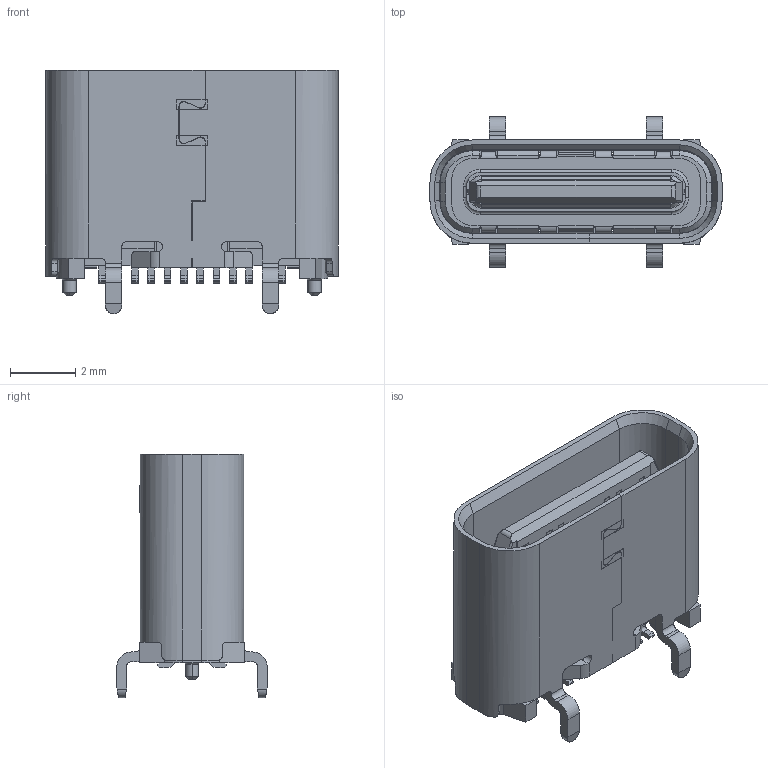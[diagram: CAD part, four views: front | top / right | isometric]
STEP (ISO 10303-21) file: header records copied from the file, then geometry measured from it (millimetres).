
FILE_DESCRIPTION (( 'STEP AP203' ), '1' );
FILE_NAME ('U5381-24PN6.5L.STEP', '2026-09-22T05:39:08', ( '' ), ( '' ), 'SwSTEP 2.0', 'SolidWorks 2024', '' );
FILE_SCHEMA (( 'CONFIG_CONTROL_DESIGN' ));
Length unit declared in the file: millimetre
Products named in the file (1): U5381-24PN6.5L
Bounding box: 8.94 x 4.6 x 7.45 mm (x, y, z)
Volume: 84.3 mm3; surface area: 482.8 mm2
Topology: 1 solids, 1 shells, 1106 faces, 3160 edges, 2045 vertices
Faces by surface type: plane 776, cylinder 240, cone 37, bspline 35, torus 18
Entity records: 38024 total; most frequent: CARTESIAN_POINT 9107, ORIENTED_EDGE 6314, DIRECTION 5620, EDGE_CURVE 3157, VECTOR 2446, LINE 2446, VERTEX_POINT 2045, AXIS2_PLACEMENT_3D 1587
